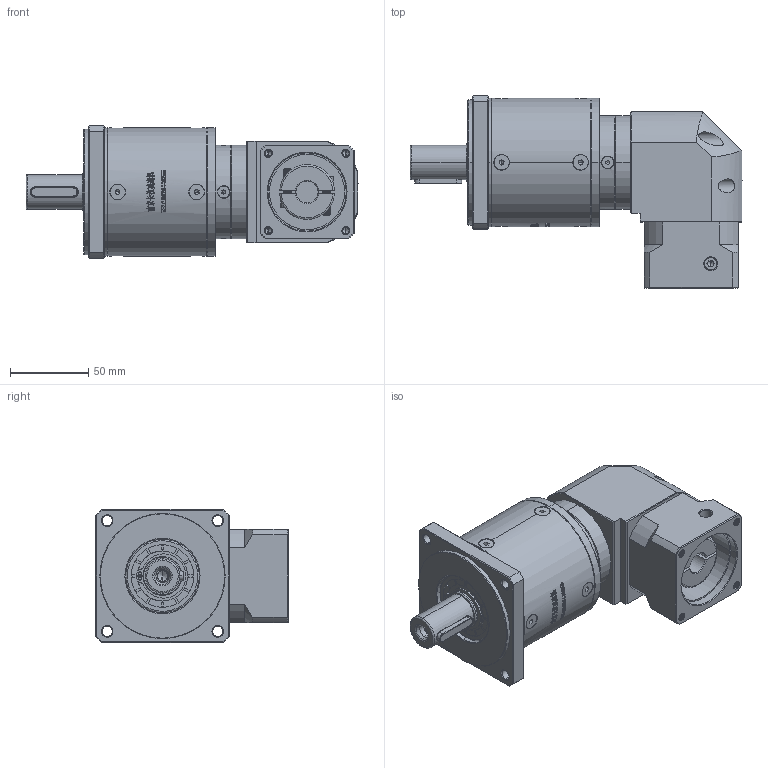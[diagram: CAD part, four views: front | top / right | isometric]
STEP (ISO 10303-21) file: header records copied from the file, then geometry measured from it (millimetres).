
FILE_DESCRIPTION (( 'STEP AP214' ), '1' );
FILE_NAME ('ZFR80-D22-L3-14-50-70-M5.step', '2022-05-08T14:56:17', ( '' ), ( 'Microsoft' ), 'SwSTEP 2.0', 'SolidWorks 2016', '' );
FILE_SCHEMA (( 'AUTOMOTIVE_DESIGN' ));
Length unit declared in the file: millimetre
Products named in the file (1): ZFR80-D22-L3-14-50-70-M5
Bounding box: 212 x 122.7 x 85 mm (x, y, z)
Volume: 889907 mm3; surface area: 107991.6 mm2
Topology: 17 solids, 18 shells, 3077 faces, 8187 edges, 5267 vertices
Faces by surface type: plane 1601, bspline 620, cylinder 468, cone 380, torus 8
Entity records: 165960 total; most frequent: CARTESIAN_POINT 60995, ORIENTED_EDGE 16282, DIRECTION 12357, EDGE_CURVE 8141, VERTEX_POINT 5267, VECTOR 4987, LINE 4987, AXIS2_PLACEMENT_3D 3685
